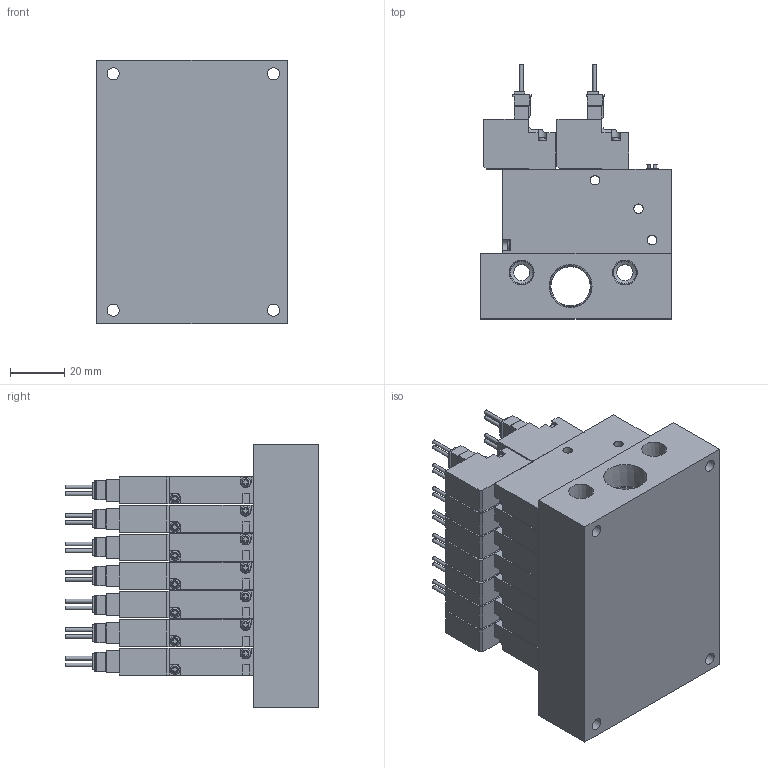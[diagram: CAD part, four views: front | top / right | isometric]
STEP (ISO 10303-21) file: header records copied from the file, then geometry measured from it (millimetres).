
FILE_DESCRIPTION(('STEP AP203'),'1');
FILE_NAME('BMPV42MZZ5A(B)707.stp','2025-04-30T06:11:50',(' '),(' '),'Spatial InterOp 3D',' ',' ');
FILE_SCHEMA(('CONFIG_CONTROL_DESIGN'));
Length unit declared in the file: millimetre
Products named in the file (10): BMPV42MZZ5A(B)707; VACUUM VALVE FUNCTION MPV42-A; UNIT-MPV42; MC4-M7
Assembly tree (22 placements, depth 2):
  BMPV42MZZ5A(B)707
    VACUUM VALVE FUNCTION MPV42-A  x10
    UNIT-MPV42  x5
    UNIT-MPV42
    VACUUM VALVE FUNCTION MPV42-A
    VACUUM VALVE FUNCTION MPV42-A
    MC4-M7
    VACUUM VALVE FUNCTION MPV42-A
    VACUUM VALVE FUNCTION MPV42-A
    UNIT-MPV42
Bounding box: 70 x 93.45 x 97 mm (x, y, z)
Volume: 335545.4 mm3; surface area: 106059.4 mm2
Topology: 22 solids, 22 shells, 1860 faces, 5010 edges, 3334 vertices
Faces by surface type: plane 1504, cylinder 291, cone 37, sphere 14, torus 14
Full cylindrical faces by diameter (mm): 1.4 x28, 1.8 x7, 2.2 x14, 3 x28, 3.5 x49, 4.134 x7, 4.5 x4, 5 x7, 6 x2, 8.2 x4, 14.5 x1
Entity records: 22260 total; most frequent: CARTESIAN_POINT 4081, DIRECTION 3566, ORIENTED_EDGE 3544, EDGE_CURVE 1772, LINE 1410, VECTOR 1410, VERTEX_POINT 1233, AXIS2_PLACEMENT_3D 1078
